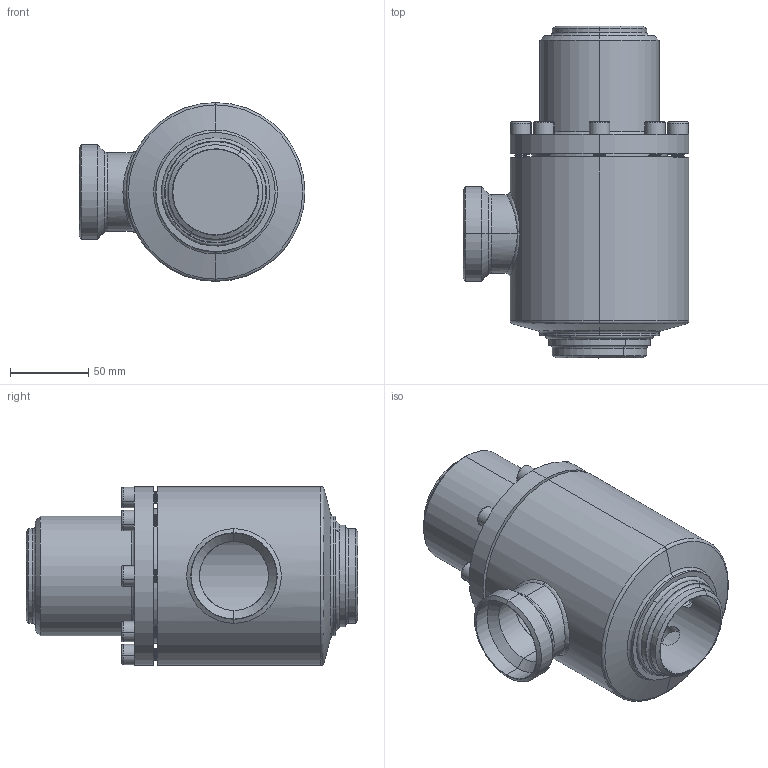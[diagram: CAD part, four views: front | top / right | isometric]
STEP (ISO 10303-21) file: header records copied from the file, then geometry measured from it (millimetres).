
FILE_DESCRIPTION (( 'STEP AP214' ), '1' );
FILE_NAME ('TR47000B15-DN50_R1_PS25.STEP', '2005-08-10T11:02:42', ( 'Herr Grams' ), ( 'AWP GmbH' ), 'SwSTEP 2.0', 'SolidWorks 2002296', '' );
FILE_SCHEMA (( 'AUTOMOTIVE_DESIGN' ));
Length unit declared in the file: millimetre
Products named in the file (10): TR47000B15-DN50_R1_PS25; Geh-kpl47000B15-DN50_PS25_R1_Standard; bead15-3_Standard; Kehlnaht15-2_Standard; Geh47000E15_DN50_PS40_R1_Standard; Stutzenteil47000E15_DN50_PS40_R1_Standard; RohrstutzA47000E15-DN50_PS40_R1_Standard; Führungsring47050-15-DN50_Standard; Deckel47000B15_DN50_PS25_R1_Standard; Zylinderschraube-DIN912-M 8x22_M 8x 22
Assembly tree (16 placements, depth 3):
  TR47000B15-DN50_R1_PS25
    Zylinderschraube-DIN912-M 8x22_M 8x 22  x8
    Geh-kpl47000B15-DN50_PS25_R1_Standard
      Kehlnaht15-2_Standard
      Stutzenteil47000E15_DN50_PS40_R1_Standard
      RohrstutzA47000E15-DN50_PS40_R1_Standard
      bead15-3_Standard
      Geh47000E15_DN50_PS40_R1_Standard
    Führungsring47050-15-DN50_Standard
    Deckel47000B15_DN50_PS25_R1_Standard
Bounding box: 144 x 211.5 x 114 mm (x, y, z)
Volume: 816469.6 mm3; surface area: 197329.8 mm2
Topology: 15 solids, 15 shells, 582 faces, 1510 edges, 982 vertices
Faces by surface type: cylinder 376, plane 112, cone 44, torus 32, bspline 18
Entity records: 22894 total; most frequent: CARTESIAN_POINT 17276, DIRECTION 1000, ORIENTED_EDGE 976, EDGE_CURVE 488, AXIS2_PLACEMENT_3D 416, VERTEX_POINT 310, EDGE_LOOP 256, FACE_OUTER_BOUND 204
